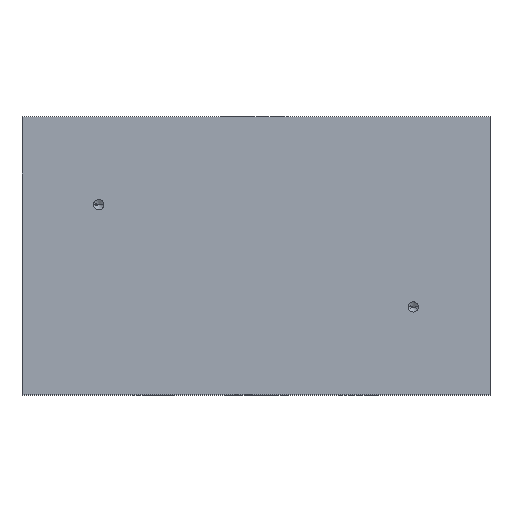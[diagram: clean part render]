
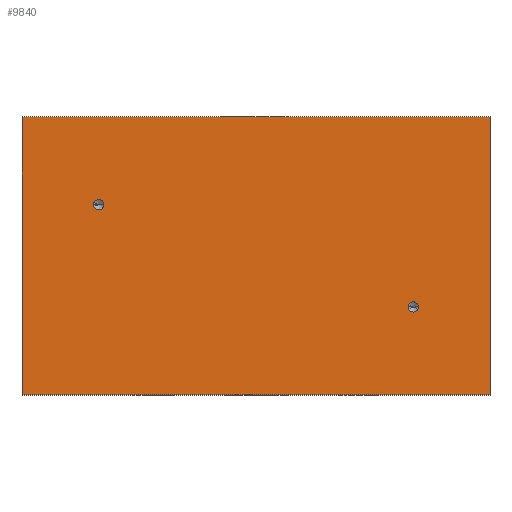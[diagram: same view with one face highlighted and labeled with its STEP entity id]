
A CAD part, top view. The second image highlights one B-rep face of the part: STEP entity #9840.
In plain terms, the highlighted planar face has unit normal (0, 0, 1).
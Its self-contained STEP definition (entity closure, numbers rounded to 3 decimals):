
#240 = EDGE_CURVE ( 'NONE', #905, #906, #7414, .T. ) ;
#246 = EDGE_CURVE ( 'NONE', #910, #911, #7416, .T. ) ;
#905 = VERTEX_POINT ( 'NONE', #12833 ) ;
#906 = VERTEX_POINT ( 'NONE', #12834 ) ;
#910 = VERTEX_POINT ( 'NONE', #12838 ) ;
#911 = VERTEX_POINT ( 'NONE', #12839 ) ;
#994 = EDGE_LOOP ( 'NONE', ( #17319, #17321 ) ) ;
#995 = EDGE_LOOP ( 'NONE', ( #17317, #17323 ) ) ;
#996 = EDGE_LOOP ( 'NONE', ( #17320, #17324, #17322, #17326 ) ) ;
#1391 = VERTEX_POINT ( 'NONE', #12976 ) ;
#1392 = VERTEX_POINT ( 'NONE', #12977 ) ;
#1415 = VERTEX_POINT ( 'NONE', #13000 ) ;
#1418 = VERTEX_POINT ( 'NONE', #13003 ) ;
#7414 = CIRCLE ( 'NONE', #10408, 0.7 ) ;
#7416 = CIRCLE ( 'NONE', #10414, 0.7 ) ;
#9777 = EDGE_CURVE ( 'NONE', #1418, #1415, #25148, .T. ) ;
#9784 = EDGE_CURVE ( 'NONE', #906, #905, #13725, .T. ) ;
#9785 = EDGE_CURVE ( 'NONE', #911, #910, #13726, .T. ) ;
#9786 = EDGE_CURVE ( 'NONE', #1391, #1415, #25175, .T. ) ;
#9787 = EDGE_CURVE ( 'NONE', #1392, #1418, #25178, .T. ) ;
#9840 = ADVANCED_FACE ( 'NONE', ( #25655, #25661, #25664 ), #26146, .F. ) ;
#9968 = EDGE_CURVE ( 'NONE', #1392, #1391, #26586, .T. ) ;
#10408 = AXIS2_PLACEMENT_3D ( 'NONE', #11293, #11294, #11295 ) ;
#10414 = AXIS2_PLACEMENT_3D ( 'NONE', #11311, #11312, #11313 ) ;
#11293 = CARTESIAN_POINT ( 'NONE',  ( 10.5, 7., 19. ) ) ;
#11294 = DIRECTION ( 'NONE',  ( 0., 0., 1. ) ) ;
#11295 = DIRECTION ( 'NONE',  ( 1., 0., 0. ) ) ;
#11311 = CARTESIAN_POINT ( 'NONE',  ( 53.5, -7., 19. ) ) ;
#11312 = DIRECTION ( 'NONE',  ( 0., 0., 1. ) ) ;
#11313 = DIRECTION ( 'NONE',  ( 1., 0., 0. ) ) ;
#12833 = CARTESIAN_POINT ( 'NONE',  ( 9.8, 7., 19. ) ) ;
#12834 = CARTESIAN_POINT ( 'NONE',  ( 11.2, 7., 19. ) ) ;
#12838 = CARTESIAN_POINT ( 'NONE',  ( 52.8, -7., 19. ) ) ;
#12839 = CARTESIAN_POINT ( 'NONE',  ( 54.2, -7., 19. ) ) ;
#12976 = CARTESIAN_POINT ( 'NONE',  ( 0., 19., 19. ) ) ;
#12977 = CARTESIAN_POINT ( 'NONE',  ( 64., 19., 19. ) ) ;
#13000 = CARTESIAN_POINT ( 'NONE',  ( 0., -19., 19. ) ) ;
#13003 = CARTESIAN_POINT ( 'NONE',  ( 64., -19., 19. ) ) ;
#13725 = CIRCLE ( 'NONE', #25517, 0.7 ) ;
#13726 = CIRCLE ( 'NONE', #25502, 0.7 ) ;
#17317 = ORIENTED_EDGE ( 'NONE', *, *, #9785, .F. ) ;
#17319 = ORIENTED_EDGE ( 'NONE', *, *, #9784, .F. ) ;
#17320 = ORIENTED_EDGE ( 'NONE', *, *, #9786, .T. ) ;
#17321 = ORIENTED_EDGE ( 'NONE', *, *, #240, .F. ) ;
#17322 = ORIENTED_EDGE ( 'NONE', *, *, #9787, .F. ) ;
#17323 = ORIENTED_EDGE ( 'NONE', *, *, #246, .F. ) ;
#17324 = ORIENTED_EDGE ( 'NONE', *, *, #9777, .F. ) ;
#17326 = ORIENTED_EDGE ( 'NONE', *, *, #9968, .T. ) ;
#25148 = LINE ( 'NONE', #25149, #25513 ) ;
#25149 = CARTESIAN_POINT ( 'NONE',  ( 64., -19., 19. ) ) ;
#25150 = DIRECTION ( 'NONE',  ( -1., 0., 0. ) ) ;
#25162 = CARTESIAN_POINT ( 'NONE',  ( 10.5, 7., 19. ) ) ;
#25169 = DIRECTION ( 'NONE',  ( 0., 0., 1. ) ) ;
#25170 = DIRECTION ( 'NONE',  ( 1., 0., 0. ) ) ;
#25171 = CARTESIAN_POINT ( 'NONE',  ( 53.5, -7., 19. ) ) ;
#25172 = DIRECTION ( 'NONE',  ( 0., 0., 1. ) ) ;
#25173 = DIRECTION ( 'NONE',  ( 1., 0., 0. ) ) ;
#25175 = LINE ( 'NONE', #25176, #25523 ) ;
#25176 = CARTESIAN_POINT ( 'NONE',  ( 0., -19., 19. ) ) ;
#25177 = DIRECTION ( 'NONE',  ( 0., -1., 0. ) ) ;
#25178 = LINE ( 'NONE', #25179, #25525 ) ;
#25179 = CARTESIAN_POINT ( 'NONE',  ( 64., -19., 19. ) ) ;
#25180 = DIRECTION ( 'NONE',  ( 0., -1., 0. ) ) ;
#25502 = AXIS2_PLACEMENT_3D ( 'NONE', #25171, #25172, #25173 ) ;
#25513 = VECTOR ( 'NONE', #25150, 1000. ) ;
#25517 = AXIS2_PLACEMENT_3D ( 'NONE', #25162, #25169, #25170 ) ;
#25523 = VECTOR ( 'NONE', #25177, 1000. ) ;
#25525 = VECTOR ( 'NONE', #25180, 1000. ) ;
#25655 = FACE_BOUND ( 'NONE', #994, .T. ) ;
#25661 = FACE_BOUND ( 'NONE', #995, .T. ) ;
#25664 = FACE_OUTER_BOUND ( 'NONE', #996, .T. ) ;
#25666 = AXIS2_PLACEMENT_3D ( 'NONE', #26147, #26148, #26149 ) ;
#25812 = VECTOR ( 'NONE', #26588, 1000. ) ;
#26146 = PLANE ( 'NONE',  #25666 ) ;
#26147 = CARTESIAN_POINT ( 'NONE',  ( 64., -19., 19. ) ) ;
#26148 = DIRECTION ( 'NONE',  ( 0., 0., -1. ) ) ;
#26149 = DIRECTION ( 'NONE',  ( -1., 0., 0. ) ) ;
#26586 = LINE ( 'NONE', #26587, #25812 ) ;
#26587 = CARTESIAN_POINT ( 'NONE',  ( 64., 19., 19. ) ) ;
#26588 = DIRECTION ( 'NONE',  ( -1., 0., 0. ) ) ;
